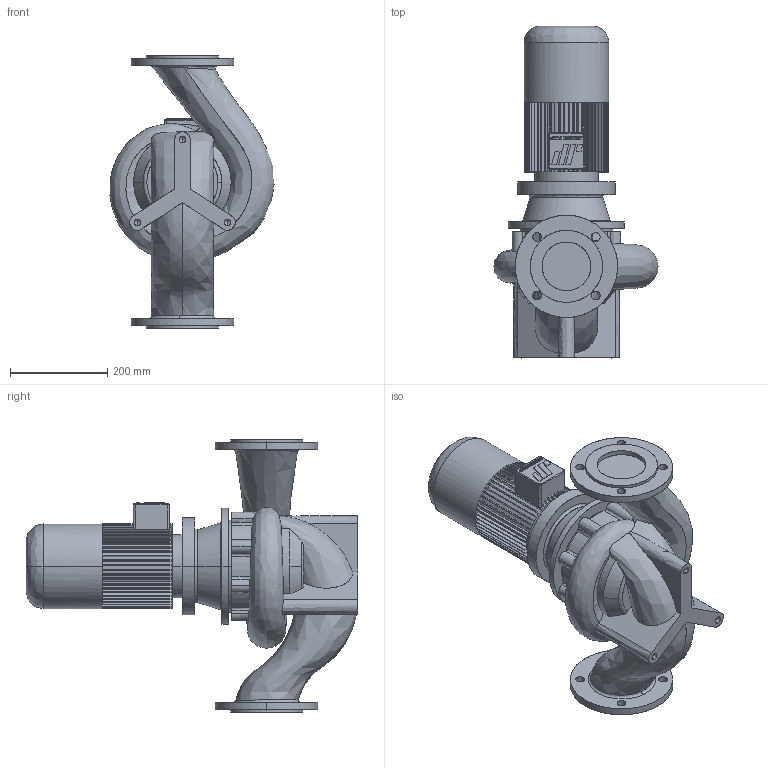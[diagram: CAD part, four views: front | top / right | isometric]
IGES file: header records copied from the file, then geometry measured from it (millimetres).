
Start section: CombiLine
Global section: file name: CLB_100-160_IEC90L.igs; native system:  By UGS Corp.; preprocessor: XPlus GENERIC/IGES 3.0; author: Stageplaats; organization: Johnson Pump Water B.V.; date: 20070716.084234; units: millimetre
Bounding box: 336.7 x 681 x 560 mm (x, y, z)
Surface area: 1054240.7 mm2 (no closed solid volume)
Topology: 0 solids, 0 shells, 543 faces, 3313 edges, 3307 vertices
Faces by surface type: bspline 543
